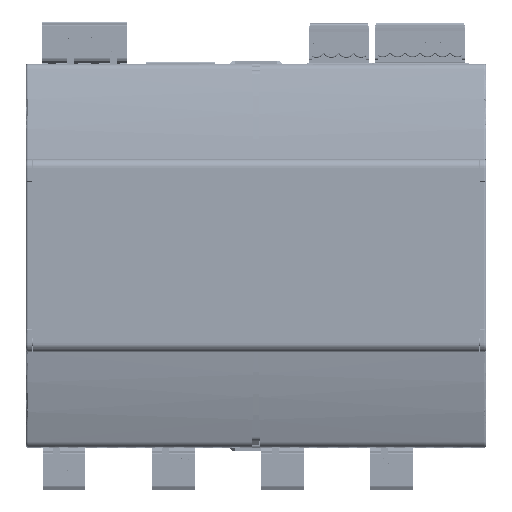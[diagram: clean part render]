
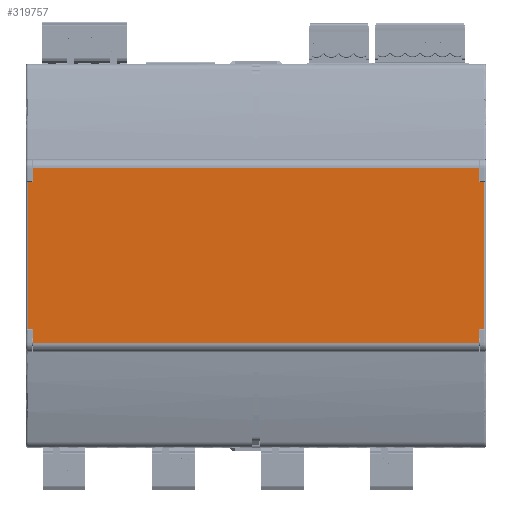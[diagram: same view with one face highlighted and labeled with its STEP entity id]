
A CAD part, top view. The second image highlights one B-rep face of the part: STEP entity #319757.
In plain terms, the highlighted planar face has unit normal (0, 0, 1) as drawn and (0, 1, 0) by its records, which use the part's own axes.
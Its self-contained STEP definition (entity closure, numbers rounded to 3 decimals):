
#317681 = VERTEX_POINT('',#317682);
#317682 = CARTESIAN_POINT('',(-20.5,54.7,1.8));
#317689 = EDGE_CURVE('',#317681,#317690,#317692,.T.);
#317690 = VERTEX_POINT('',#317691);
#317691 = CARTESIAN_POINT('',(-17.2,54.7,1.8));
#317692 = LINE('',#317693,#317694);
#317693 = CARTESIAN_POINT('',(5.65,54.7,1.8));
#317694 = VECTOR('',#317695,1.);
#317695 = DIRECTION('',(1.,0.,0.));
#317715 = VERTEX_POINT('',#317716);
#317716 = CARTESIAN_POINT('',(17.2,54.7,1.8));
#317722 = EDGE_CURVE('',#317715,#317723,#317725,.T.);
#317723 = VERTEX_POINT('',#317724);
#317724 = CARTESIAN_POINT('',(20.5,54.7,1.8));
#317725 = LINE('',#317726,#317727);
#317726 = CARTESIAN_POINT('',(5.65,54.7,1.8));
#317727 = VECTOR('',#317728,1.);
#317728 = DIRECTION('',(1.,0.,0.));
#317789 = VERTEX_POINT('',#317790);
#317790 = CARTESIAN_POINT('',(17.2,54.7,107.3));
#317797 = EDGE_CURVE('',#317798,#317789,#317800,.T.);
#317798 = VERTEX_POINT('',#317799);
#317799 = CARTESIAN_POINT('',(-17.2,54.7,107.3));
#317800 = LINE('',#317801,#317802);
#317801 = CARTESIAN_POINT('',(-16.96,54.7,107.3));
#317802 = VECTOR('',#317803,1.);
#317803 = DIRECTION('',(1.,0.,0.));
#318199 = VERTEX_POINT('',#318200);
#318200 = CARTESIAN_POINT('',(17.2,54.7,0.7));
#318209 = VERTEX_POINT('',#318210);
#318210 = CARTESIAN_POINT('',(-17.2,54.7,0.7));
#318217 = EDGE_CURVE('',#318209,#318199,#318218,.T.);
#318218 = LINE('',#318219,#318220);
#318219 = CARTESIAN_POINT('',(-16.96,54.7,0.7));
#318220 = VECTOR('',#318221,1.);
#318221 = DIRECTION('',(1.,0.,0.));
#318399 = EDGE_CURVE('',#318209,#317690,#318400,.T.);
#318400 = LINE('',#318401,#318402);
#318401 = CARTESIAN_POINT('',(-17.2,54.7,0.15));
#318402 = VECTOR('',#318403,1.);
#318403 = DIRECTION('',(0.,0.,1.));
#318413 = EDGE_CURVE('',#317723,#318414,#318416,.T.);
#318414 = VERTEX_POINT('',#318415);
#318415 = CARTESIAN_POINT('',(20.5,54.7,106.2));
#318416 = LINE('',#318417,#318418);
#318417 = CARTESIAN_POINT('',(20.5,54.7,23.2));
#318418 = VECTOR('',#318419,1.);
#318419 = DIRECTION('',(0.,0.,1.));
#319147 = EDGE_CURVE('',#318199,#317715,#319148,.T.);
#319148 = LINE('',#319149,#319150);
#319149 = CARTESIAN_POINT('',(17.2,54.7,0.15));
#319150 = VECTOR('',#319151,1.);
#319151 = DIRECTION('',(0.,0.,1.));
#319445 = VERTEX_POINT('',#319446);
#319446 = CARTESIAN_POINT('',(-17.2,54.7,106.2));
#319460 = EDGE_CURVE('',#319445,#317798,#319461,.T.);
#319461 = LINE('',#319462,#319463);
#319462 = CARTESIAN_POINT('',(-17.2,54.7,0.15));
#319463 = VECTOR('',#319464,1.);
#319464 = DIRECTION('',(0.,0.,1.));
#319757 = ADVANCED_FACE('',(#319758),#319796,.F.);
#319758 = FACE_BOUND('',#319759,.T.);
#319759 = EDGE_LOOP('',(#319760,#319761,#319762,#319763,#319764,#319765,
    #319766,#319774,#319780,#319781,#319782,#319790));
#319760 = ORIENTED_EDGE('',*,*,#318413,.F.);
#319761 = ORIENTED_EDGE('',*,*,#317722,.F.);
#319762 = ORIENTED_EDGE('',*,*,#319147,.F.);
#319763 = ORIENTED_EDGE('',*,*,#318217,.F.);
#319764 = ORIENTED_EDGE('',*,*,#318399,.T.);
#319765 = ORIENTED_EDGE('',*,*,#317689,.F.);
#319766 = ORIENTED_EDGE('',*,*,#319767,.T.);
#319767 = EDGE_CURVE('',#317681,#319768,#319770,.T.);
#319768 = VERTEX_POINT('',#319769);
#319769 = CARTESIAN_POINT('',(-20.5,54.7,106.2));
#319770 = LINE('',#319771,#319772);
#319771 = CARTESIAN_POINT('',(-20.5,54.7,-3.36));
#319772 = VECTOR('',#319773,1.);
#319773 = DIRECTION('',(0.,0.,1.));
#319774 = ORIENTED_EDGE('',*,*,#319775,.F.);
#319775 = EDGE_CURVE('',#319445,#319768,#319776,.T.);
#319776 = LINE('',#319777,#319778);
#319777 = CARTESIAN_POINT('',(5.65,54.7,106.2));
#319778 = VECTOR('',#319779,1.);
#319779 = DIRECTION('',(-1.,0.,0.));
#319780 = ORIENTED_EDGE('',*,*,#319460,.T.);
#319781 = ORIENTED_EDGE('',*,*,#317797,.T.);
#319782 = ORIENTED_EDGE('',*,*,#319783,.T.);
#319783 = EDGE_CURVE('',#317789,#319784,#319786,.T.);
#319784 = VERTEX_POINT('',#319785);
#319785 = CARTESIAN_POINT('',(17.2,54.7,106.2));
#319786 = LINE('',#319787,#319788);
#319787 = CARTESIAN_POINT('',(17.2,54.7,0.15));
#319788 = VECTOR('',#319789,1.);
#319789 = DIRECTION('',(0.,0.,-1.));
#319790 = ORIENTED_EDGE('',*,*,#319791,.F.);
#319791 = EDGE_CURVE('',#318414,#319784,#319792,.T.);
#319792 = LINE('',#319793,#319794);
#319793 = CARTESIAN_POINT('',(5.65,54.7,106.2));
#319794 = VECTOR('',#319795,1.);
#319795 = DIRECTION('',(-1.,0.,0.));
#319796 = PLANE('',#319797);
#319797 = AXIS2_PLACEMENT_3D('',#319798,#319799,#319800);
#319798 = CARTESIAN_POINT('',(-16.96,54.7,18.2));
#319799 = DIRECTION('',(0.,-1.,0.));
#319800 = DIRECTION('',(-1.,0.,0.));
